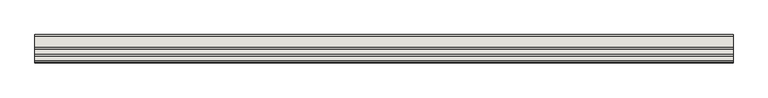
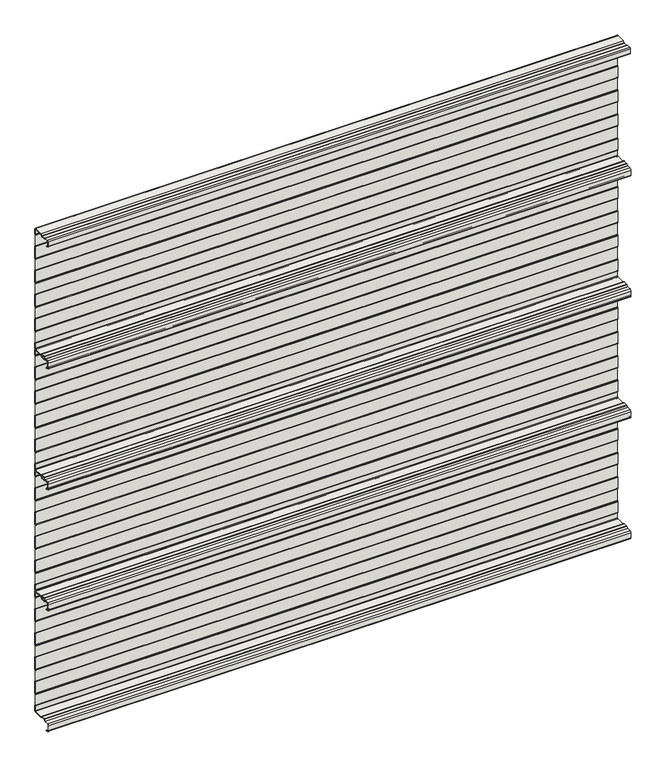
"""IFC4 building model written with IfcOpenShell, lengths in millimetres: wall geometry, Curtain Wall:21_CW_binnendoos_SAB90_500:160824 : Curtain Wall:21_CW_binnendoos_SAB90_500:160824."""

from ifc_helpers import new_model, si_unit, point, frame, frame_2d, origin, place, context, project, spatial, polyline, circle_curve, trimmed, segment, composite_curve, outline, extrude, source, transform, mapped, element, save


def wall_1cc3ae2e(model_context):
    return source(origin(), model_context, "Body", "SweptSolid", [
        extrude(outline(composite_curve([segment(trimmed(circle_curve(frame_2d((-16993.0, 477.8008302)), 2.0), [point((-16995.0, 477.8008302))], [point((-16993.6840403, 475.9214449))], True, "CARTESIAN"), True, "CONTINUOUS"), segment(polyline([(-16993.6840403, 475.9214449), (-16988.7984187, 474.1432241), (-16989.482459, 472.2638389), (-16994.3680806, 474.0420597)]), True, "CONTINUOUS"), segment(trimmed(circle_curve(frame_2d((-16993.0, 477.8008302)), 4.0), [point((-16994.3680806, 474.0420597))], [point((-16997.0, 477.8008302))], False, "CARTESIAN"), True, "CONTINUOUS"), segment(polyline([(-16997.0, 477.8008302), (-16997.0, 496.0)]), True, "CONTINUOUS"), segment(trimmed(circle_curve(frame_2d((-16993.0, 496.0)), 4.0), [point((-16997.0, 496.0))], [point((-16993.0, 500.0))], False, "CARTESIAN"), True, "CONTINUOUS"), segment(polyline([(-16993.0, 500.0), (-16978.0, 500.0), (-16971.5215463, 495.3725331)]), True, "CONTINUOUS"), segment(trimmed(circle_curve(frame_2d((-16970.3590699, 497.0)), 2.0), [point((-16971.5215463, 495.3725331))], [point((-16970.3590699, 495.0))], True, "CARTESIAN"), True, "CONTINUOUS"), segment(polyline([(-16970.3590699, 495.0), (-16955.6409301, 495.0)]), True, "CONTINUOUS"), segment(trimmed(circle_curve(frame_2d((-16955.6409301, 497.0)), 2.0), [point((-16955.6409301, 495.0))], [point((-16954.4784537, 495.3725331))], True, "CARTESIAN"), True, "CONTINUOUS"), segment(polyline([(-16954.4784537, 495.3725331), (-16948.0, 500.0), (-16912.0, 500.0)]), True, "CONTINUOUS"), segment(trimmed(circle_curve(frame_2d((-16912.0, 496.0)), 4.0), [point((-16912.0, 500.0))], [point((-16908.0, 496.0))], False, "CARTESIAN"), True, "CONTINUOUS"), segment(polyline([(-16908.0, 496.0), (-16908.0, 475.0), (-16909.4142136, 473.5857864)]), True, "CONTINUOUS"), segment(trimmed(circle_curve(frame_2d((-16908.0, 472.1715729)), 2.0), [point((-16909.4142136, 473.5857864))], [point((-16910.0, 472.1715729))], True, "CARTESIAN"), True, "CONTINUOUS"), segment(polyline([(-16910.0, 472.1715729), (-16910.0, 427.8284271)]), True, "CONTINUOUS"), segment(trimmed(circle_curve(frame_2d((-16908.0, 427.8284271)), 2.0), [point((-16910.0, 427.8284271))], [point((-16909.4142136, 426.4142136))], True, "CARTESIAN"), True, "CONTINUOUS"), segment(polyline([(-16909.4142136, 426.4142136), (-16908.0, 425.0), (-16908.0, 375.0), (-16909.4142136, 373.5857864)]), True, "CONTINUOUS"), segment(trimmed(circle_curve(frame_2d((-16908.0, 372.1715729)), 2.0), [point((-16909.4142136, 373.5857864))], [point((-16910.0, 372.1715729))], True, "CARTESIAN"), True, "CONTINUOUS"), segment(polyline([(-16910.0, 372.1715729), (-16910.0, 327.8284271)]), True, "CONTINUOUS"), segment(trimmed(circle_curve(frame_2d((-16908.0, 327.8284271)), 2.0), [point((-16910.0, 327.8284271))], [point((-16909.4142136, 326.4142136))], True, "CARTESIAN"), True, "CONTINUOUS"), segment(polyline([(-16909.4142136, 326.4142136), (-16908.0, 325.0), (-16908.0, 275.0), (-16909.4142136, 273.5857864)]), True, "CONTINUOUS"), segment(trimmed(circle_curve(frame_2d((-16908.0, 272.1715729)), 2.0), [point((-16909.4142136, 273.5857864))], [point((-16910.0, 272.1715729))], True, "CARTESIAN"), True, "CONTINUOUS"), segment(polyline([(-16910.0, 272.1715729), (-16910.0, 227.8284271)]), True, "CONTINUOUS"), segment(trimmed(circle_curve(frame_2d((-16908.0, 227.8284271)), 2.0), [point((-16910.0, 227.8284271))], [point((-16909.4142136, 226.4142136))], True, "CARTESIAN"), True, "CONTINUOUS"), segment(polyline([(-16909.4142136, 226.4142136), (-16908.0, 225.0), (-16908.0, 175.0), (-16909.4142136, 173.5857864)]), True, "CONTINUOUS"), segment(trimmed(circle_curve(frame_2d((-16908.0, 172.1715729)), 2.0), [point((-16909.4142136, 173.5857864))], [point((-16910.0, 172.1715729))], True, "CARTESIAN"), True, "CONTINUOUS"), segment(polyline([(-16910.0, 172.1715729), (-16910.0, 127.8284271)]), True, "CONTINUOUS"), segment(trimmed(circle_curve(frame_2d((-16908.0, 127.8284271)), 2.0), [point((-16910.0, 127.8284271))], [point((-16909.4142136, 126.4142136))], True, "CARTESIAN"), True, "CONTINUOUS"), segment(polyline([(-16909.4142136, 126.4142136), (-16908.0, 125.0), (-16908.0, 75.0), (-16909.4142136, 73.5857864)]), True, "CONTINUOUS"), segment(trimmed(circle_curve(frame_2d((-16908.0, 72.1715729)), 2.0), [point((-16909.4142136, 73.5857864))], [point((-16910.0, 72.1715729))], True, "CARTESIAN"), True, "CONTINUOUS"), segment(polyline([(-16910.0, 72.1715729), (-16910.0, 27.8284271)]), True, "CONTINUOUS"), segment(trimmed(circle_curve(frame_2d((-16908.0, 27.8284271)), 2.0), [point((-16910.0, 27.8284271))], [point((-16909.4142136, 26.4142136))], True, "CARTESIAN"), True, "CONTINUOUS"), segment(polyline([(-16909.4142136, 26.4142136), (-16908.0, 25.0), (-16908.0, 4.0)]), True, "CONTINUOUS"), segment(trimmed(circle_curve(frame_2d((-16912.0, 4.0)), 4.0), [point((-16908.0, 4.0))], [point((-16912.0, 0.0))], False, "CARTESIAN"), True, "CONTINUOUS"), segment(polyline([(-16912.0, 0.0), (-16948.0, 0.0), (-16954.4784537, 4.6274669)]), True, "CONTINUOUS"), segment(trimmed(circle_curve(frame_2d((-16955.6409301, 3.0)), 2.0), [point((-16954.4784537, 4.6274669))], [point((-16955.6409301, 5.0))], True, "CARTESIAN"), True, "CONTINUOUS"), segment(polyline([(-16955.6409301, 5.0), (-16970.3590699, 5.0)]), True, "CONTINUOUS"), segment(trimmed(circle_curve(frame_2d((-16970.3590699, 3.0)), 2.0), [point((-16970.3590699, 5.0))], [point((-16971.5215463, 4.6274669))], True, "CARTESIAN"), True, "CONTINUOUS"), segment(polyline([(-16971.5215463, 4.6274669), (-16978.0, 0.0), (-16994.0, 0.0)]), True, "CONTINUOUS"), segment(trimmed(circle_curve(frame_2d((-16994.0, -4.0)), 4.0), [point((-16994.0, 0.0))], [point((-16998.0, -4.0))], True, "CARTESIAN"), True, "CONTINUOUS"), segment(polyline([(-16998.0, -4.0), (-16998.0, -24.1991698)]), True, "CONTINUOUS"), segment(trimmed(circle_curve(frame_2d((-16994.0, -24.1991698)), 4.0), [point((-16998.0, -24.1991698))], [point((-16995.3680806, -27.9579403))], True, "CARTESIAN"), True, "CONTINUOUS"), segment(polyline([(-16995.3680806, -27.9579403), (-16983.9046107, -32.1303021), (-16984.588651, -34.0096874), (-16996.0521209, -29.8373256)]), True, "CONTINUOUS"), segment(trimmed(circle_curve(frame_2d((-16994.0, -24.1991698)), 6.0), [point((-16996.0521209, -29.8373256))], [point((-17000.0, -24.1991698))], False, "CARTESIAN"), True, "CONTINUOUS"), segment(polyline([(-17000.0, -24.1991698), (-17000.0, -4.0)]), True, "CONTINUOUS"), segment(trimmed(circle_curve(frame_2d((-16994.0, -4.0)), 6.0), [point((-17000.0, -4.0))], [point((-16994.0, 2.0))], False, "CARTESIAN"), True, "CONTINUOUS"), segment(polyline([(-16994.0, 2.0), (-16978.6409301, 2.0), (-16972.6840227, 6.2549339)]), True, "CONTINUOUS"), segment(trimmed(circle_curve(frame_2d((-16970.3590699, 3.0)), 4.0), [point((-16972.6840227, 6.2549339))], [point((-16970.3590699, 7.0))], False, "CARTESIAN"), True, "CONTINUOUS"), segment(polyline([(-16970.3590699, 7.0), (-16955.6409301, 7.0)]), True, "CONTINUOUS"), segment(trimmed(circle_curve(frame_2d((-16955.6409301, 3.0)), 4.0), [point((-16955.6409301, 7.0))], [point((-16953.3159773, 6.2549339))], False, "CARTESIAN"), True, "CONTINUOUS"), segment(polyline([(-16953.3159773, 6.2549339), (-16947.3590699, 2.0), (-16912.0, 2.0)]), True, "CONTINUOUS"), segment(trimmed(circle_curve(frame_2d((-16912.0, 4.0)), 2.0), [point((-16912.0, 2.0))], [point((-16910.0, 4.0))], True, "CARTESIAN"), True, "CONTINUOUS"), segment(polyline([(-16910.0, 4.0), (-16910.0, 24.1715729), (-16910.8284271, 25.0)]), True, "CONTINUOUS"), segment(trimmed(circle_curve(frame_2d((-16908.0, 27.8284271)), 4.0), [point((-16910.8284271, 25.0))], [point((-16912.0, 27.8284271))], False, "CARTESIAN"), True, "CONTINUOUS"), segment(polyline([(-16912.0, 27.8284271), (-16912.0, 72.1715729)]), True, "CONTINUOUS"), segment(trimmed(circle_curve(frame_2d((-16908.0, 72.1715729)), 4.0), [point((-16912.0, 72.1715729))], [point((-16910.8284271, 75.0))], False, "CARTESIAN"), True, "CONTINUOUS"), segment(polyline([(-16910.8284271, 75.0), (-16910.0, 75.8284271), (-16910.0, 124.1715729), (-16910.8284271, 125.0)]), True, "CONTINUOUS"), segment(trimmed(circle_curve(frame_2d((-16908.0, 127.8284271)), 4.0), [point((-16910.8284271, 125.0))], [point((-16912.0, 127.8284271))], False, "CARTESIAN"), True, "CONTINUOUS"), segment(polyline([(-16912.0, 127.8284271), (-16912.0, 172.1715729)]), True, "CONTINUOUS"), segment(trimmed(circle_curve(frame_2d((-16908.0, 172.1715729)), 4.0), [point((-16912.0, 172.1715729))], [point((-16910.8284271, 175.0))], False, "CARTESIAN"), True, "CONTINUOUS"), segment(polyline([(-16910.8284271, 175.0), (-16910.0, 175.8284271), (-16910.0, 224.1715729), (-16910.8284271, 225.0)]), True, "CONTINUOUS"), segment(trimmed(circle_curve(frame_2d((-16908.0, 227.8284271)), 4.0), [point((-16910.8284271, 225.0))], [point((-16912.0, 227.8284271))], False, "CARTESIAN"), True, "CONTINUOUS"), segment(polyline([(-16912.0, 227.8284271), (-16912.0, 272.1715729)]), True, "CONTINUOUS"), segment(trimmed(circle_curve(frame_2d((-16908.0, 272.1715729)), 4.0), [point((-16912.0, 272.1715729))], [point((-16910.8284271, 275.0))], False, "CARTESIAN"), True, "CONTINUOUS"), segment(polyline([(-16910.8284271, 275.0), (-16910.0, 275.8284271), (-16910.0, 324.1715729), (-16910.8284271, 325.0)]), True, "CONTINUOUS"), segment(trimmed(circle_curve(frame_2d((-16908.0, 327.8284271)), 4.0), [point((-16910.8284271, 325.0))], [point((-16912.0, 327.8284271))], False, "CARTESIAN"), True, "CONTINUOUS"), segment(polyline([(-16912.0, 327.8284271), (-16912.0, 372.1715729)]), True, "CONTINUOUS"), segment(trimmed(circle_curve(frame_2d((-16908.0, 372.1715729)), 4.0), [point((-16912.0, 372.1715729))], [point((-16910.8284271, 375.0))], False, "CARTESIAN"), True, "CONTINUOUS"), segment(polyline([(-16910.8284271, 375.0), (-16910.0, 375.8284271), (-16910.0, 424.1715729), (-16910.8284271, 425.0)]), True, "CONTINUOUS"), segment(trimmed(circle_curve(frame_2d((-16908.0, 427.8284271)), 4.0), [point((-16910.8284271, 425.0))], [point((-16912.0, 427.8284271))], False, "CARTESIAN"), True, "CONTINUOUS"), segment(polyline([(-16912.0, 427.8284271), (-16912.0, 472.1715729)]), True, "CONTINUOUS"), segment(trimmed(circle_curve(frame_2d((-16908.0, 472.1715729)), 4.0), [point((-16912.0, 472.1715729))], [point((-16910.8284271, 475.0))], False, "CARTESIAN"), True, "CONTINUOUS"), segment(polyline([(-16910.8284271, 475.0), (-16910.0, 475.8284271), (-16910.0, 496.0)]), True, "CONTINUOUS"), segment(trimmed(circle_curve(frame_2d((-16912.0, 496.0)), 2.0), [point((-16910.0, 496.0))], [point((-16912.0, 498.0))], True, "CARTESIAN"), True, "CONTINUOUS"), segment(polyline([(-16912.0, 498.0), (-16947.3590699, 498.0), (-16953.3159773, 493.7450661)]), True, "CONTINUOUS"), segment(trimmed(circle_curve(frame_2d((-16955.6409301, 497.0)), 4.0), [point((-16953.3159773, 493.7450661))], [point((-16955.6409301, 493.0))], False, "CARTESIAN"), True, "CONTINUOUS"), segment(polyline([(-16955.6409301, 493.0), (-16970.3590699, 493.0)]), True, "CONTINUOUS"), segment(trimmed(circle_curve(frame_2d((-16970.3590699, 497.0)), 4.0), [point((-16970.3590699, 493.0))], [point((-16972.6840227, 493.7450661))], False, "CARTESIAN"), True, "CONTINUOUS"), segment(polyline([(-16972.6840227, 493.7450661), (-16978.6409301, 498.0), (-16993.0, 498.0)]), True, "CONTINUOUS"), segment(trimmed(circle_curve(frame_2d((-16993.0, 496.0)), 2.0), [point((-16993.0, 498.0))], [point((-16995.0, 496.0))], True, "CARTESIAN"), True, "CONTINUOUS"), segment(polyline([(-16995.0, 496.0), (-16995.0, 477.8008302)]), True, "CONTINUOUS")], self_intersect=False)), frame((11995.0, 0.0, 0.0), z_axis=(1.0, 0.0, 0.0), x_axis=(0.0, 1.0, 0.0)), (0.0, 0.0, 1.0), 2280.0),
        extrude(outline(composite_curve([segment(trimmed(circle_curve(frame_2d((-16993.0, 977.8008302)), 2.0), [point((-16995.0, 977.8008302))], [point((-16993.6840403, 975.9214449))], True, "CARTESIAN"), True, "CONTINUOUS"), segment(polyline([(-16993.6840403, 975.9214449), (-16988.7984187, 974.1432241), (-16989.482459, 972.2638389), (-16994.3680806, 974.0420597)]), True, "CONTINUOUS"), segment(trimmed(circle_curve(frame_2d((-16993.0, 977.8008302)), 4.0), [point((-16994.3680806, 974.0420597))], [point((-16997.0, 977.8008302))], False, "CARTESIAN"), True, "CONTINUOUS"), segment(polyline([(-16997.0, 977.8008302), (-16997.0, 996.0)]), True, "CONTINUOUS"), segment(trimmed(circle_curve(frame_2d((-16993.0, 996.0)), 4.0), [point((-16997.0, 996.0))], [point((-16993.0, 1000.0))], False, "CARTESIAN"), True, "CONTINUOUS"), segment(polyline([(-16993.0, 1000.0), (-16978.0, 1000.0), (-16971.5215463, 995.3725331)]), True, "CONTINUOUS"), segment(trimmed(circle_curve(frame_2d((-16970.3590699, 997.0)), 2.0), [point((-16971.5215463, 995.3725331))], [point((-16970.3590699, 995.0))], True, "CARTESIAN"), True, "CONTINUOUS"), segment(polyline([(-16970.3590699, 995.0), (-16955.6409301, 995.0)]), True, "CONTINUOUS"), segment(trimmed(circle_curve(frame_2d((-16955.6409301, 997.0)), 2.0), [point((-16955.6409301, 995.0))], [point((-16954.4784537, 995.3725331))], True, "CARTESIAN"), True, "CONTINUOUS"), segment(polyline([(-16954.4784537, 995.3725331), (-16948.0, 1000.0), (-16912.0, 1000.0)]), True, "CONTINUOUS"), segment(trimmed(circle_curve(frame_2d((-16912.0, 996.0)), 4.0), [point((-16912.0, 1000.0))], [point((-16908.0, 996.0))], False, "CARTESIAN"), True, "CONTINUOUS"), segment(polyline([(-16908.0, 996.0), (-16908.0, 975.0), (-16909.4142136, 973.5857864)]), True, "CONTINUOUS"), segment(trimmed(circle_curve(frame_2d((-16908.0, 972.1715729)), 2.0), [point((-16909.4142136, 973.5857864))], [point((-16910.0, 972.1715729))], True, "CARTESIAN"), True, "CONTINUOUS"), segment(polyline([(-16910.0, 972.1715729), (-16910.0, 927.8284271)]), True, "CONTINUOUS"), segment(trimmed(circle_curve(frame_2d((-16908.0, 927.8284271)), 2.0), [point((-16910.0, 927.8284271))], [point((-16909.4142136, 926.4142136))], True, "CARTESIAN"), True, "CONTINUOUS"), segment(polyline([(-16909.4142136, 926.4142136), (-16908.0, 925.0), (-16908.0, 875.0), (-16909.4142136, 873.5857864)]), True, "CONTINUOUS"), segment(trimmed(circle_curve(frame_2d((-16908.0, 872.1715729)), 2.0), [point((-16909.4142136, 873.5857864))], [point((-16910.0, 872.1715729))], True, "CARTESIAN"), True, "CONTINUOUS"), segment(polyline([(-16910.0, 872.1715729), (-16910.0, 827.8284271)]), True, "CONTINUOUS"), segment(trimmed(circle_curve(frame_2d((-16908.0, 827.8284271)), 2.0), [point((-16910.0, 827.8284271))], [point((-16909.4142136, 826.4142136))], True, "CARTESIAN"), True, "CONTINUOUS"), segment(polyline([(-16909.4142136, 826.4142136), (-16908.0, 825.0), (-16908.0, 775.0), (-16909.4142136, 773.5857864)]), True, "CONTINUOUS"), segment(trimmed(circle_curve(frame_2d((-16908.0, 772.1715729)), 2.0), [point((-16909.4142136, 773.5857864))], [point((-16910.0, 772.1715729))], True, "CARTESIAN"), True, "CONTINUOUS"), segment(polyline([(-16910.0, 772.1715729), (-16910.0, 727.8284271)]), True, "CONTINUOUS"), segment(trimmed(circle_curve(frame_2d((-16908.0, 727.8284271)), 2.0), [point((-16910.0, 727.8284271))], [point((-16909.4142136, 726.4142136))], True, "CARTESIAN"), True, "CONTINUOUS"), segment(polyline([(-16909.4142136, 726.4142136), (-16908.0, 725.0), (-16908.0, 675.0), (-16909.4142136, 673.5857864)]), True, "CONTINUOUS"), segment(trimmed(circle_curve(frame_2d((-16908.0, 672.1715729)), 2.0), [point((-16909.4142136, 673.5857864))], [point((-16910.0, 672.1715729))], True, "CARTESIAN"), True, "CONTINUOUS"), segment(polyline([(-16910.0, 672.1715729), (-16910.0, 627.8284271)]), True, "CONTINUOUS"), segment(trimmed(circle_curve(frame_2d((-16908.0, 627.8284271)), 2.0), [point((-16910.0, 627.8284271))], [point((-16909.4142136, 626.4142136))], True, "CARTESIAN"), True, "CONTINUOUS"), segment(polyline([(-16909.4142136, 626.4142136), (-16908.0, 625.0), (-16908.0, 575.0), (-16909.4142136, 573.5857864)]), True, "CONTINUOUS"), segment(trimmed(circle_curve(frame_2d((-16908.0, 572.1715729)), 2.0), [point((-16909.4142136, 573.5857864))], [point((-16910.0, 572.1715729))], True, "CARTESIAN"), True, "CONTINUOUS"), segment(polyline([(-16910.0, 572.1715729), (-16910.0, 527.8284271)]), True, "CONTINUOUS"), segment(trimmed(circle_curve(frame_2d((-16908.0, 527.8284271)), 2.0), [point((-16910.0, 527.8284271))], [point((-16909.4142136, 526.4142136))], True, "CARTESIAN"), True, "CONTINUOUS"), segment(polyline([(-16909.4142136, 526.4142136), (-16908.0, 525.0), (-16908.0, 504.0)]), True, "CONTINUOUS"), segment(trimmed(circle_curve(frame_2d((-16912.0, 504.0)), 4.0), [point((-16908.0, 504.0))], [point((-16912.0, 500.0))], False, "CARTESIAN"), True, "CONTINUOUS"), segment(polyline([(-16912.0, 500.0), (-16948.0, 500.0), (-16954.4784537, 504.6274669)]), True, "CONTINUOUS"), segment(trimmed(circle_curve(frame_2d((-16955.6409301, 503.0)), 2.0), [point((-16954.4784537, 504.6274669))], [point((-16955.6409301, 505.0))], True, "CARTESIAN"), True, "CONTINUOUS"), segment(polyline([(-16955.6409301, 505.0), (-16970.3590699, 505.0)]), True, "CONTINUOUS"), segment(trimmed(circle_curve(frame_2d((-16970.3590699, 503.0)), 2.0), [point((-16970.3590699, 505.0))], [point((-16971.5215463, 504.6274669))], True, "CARTESIAN"), True, "CONTINUOUS"), segment(polyline([(-16971.5215463, 504.6274669), (-16978.0, 500.0), (-16994.0, 500.0)]), True, "CONTINUOUS"), segment(trimmed(circle_curve(frame_2d((-16994.0, 496.0)), 4.0), [point((-16994.0, 500.0))], [point((-16998.0, 496.0))], True, "CARTESIAN"), True, "CONTINUOUS"), segment(polyline([(-16998.0, 496.0), (-16998.0, 475.8008302)]), True, "CONTINUOUS"), segment(trimmed(circle_curve(frame_2d((-16994.0, 475.8008302)), 4.0), [point((-16998.0, 475.8008302))], [point((-16995.3680806, 472.0420597))], True, "CARTESIAN"), True, "CONTINUOUS"), segment(polyline([(-16995.3680806, 472.0420597), (-16983.9046107, 467.8696979), (-16984.588651, 465.9903126), (-16996.0521209, 470.1626744)]), True, "CONTINUOUS"), segment(trimmed(circle_curve(frame_2d((-16994.0, 475.8008302)), 6.0), [point((-16996.0521209, 470.1626744))], [point((-17000.0, 475.8008302))], False, "CARTESIAN"), True, "CONTINUOUS"), segment(polyline([(-17000.0, 475.8008302), (-17000.0, 496.0)]), True, "CONTINUOUS"), segment(trimmed(circle_curve(frame_2d((-16994.0, 496.0)), 6.0), [point((-17000.0, 496.0))], [point((-16994.0, 502.0))], False, "CARTESIAN"), True, "CONTINUOUS"), segment(polyline([(-16994.0, 502.0), (-16978.6409301, 502.0), (-16972.6840227, 506.2549339)]), True, "CONTINUOUS"), segment(trimmed(circle_curve(frame_2d((-16970.3590699, 503.0)), 4.0), [point((-16972.6840227, 506.2549339))], [point((-16970.3590699, 507.0))], False, "CARTESIAN"), True, "CONTINUOUS"), segment(polyline([(-16970.3590699, 507.0), (-16955.6409301, 507.0)]), True, "CONTINUOUS"), segment(trimmed(circle_curve(frame_2d((-16955.6409301, 503.0)), 4.0), [point((-16955.6409301, 507.0))], [point((-16953.3159773, 506.2549339))], False, "CARTESIAN"), True, "CONTINUOUS"), segment(polyline([(-16953.3159773, 506.2549339), (-16947.3590699, 502.0), (-16912.0, 502.0)]), True, "CONTINUOUS"), segment(trimmed(circle_curve(frame_2d((-16912.0, 504.0)), 2.0), [point((-16912.0, 502.0))], [point((-16910.0, 504.0))], True, "CARTESIAN"), True, "CONTINUOUS"), segment(polyline([(-16910.0, 504.0), (-16910.0, 524.1715729), (-16910.8284271, 525.0)]), True, "CONTINUOUS"), segment(trimmed(circle_curve(frame_2d((-16908.0, 527.8284271)), 4.0), [point((-16910.8284271, 525.0))], [point((-16912.0, 527.8284271))], False, "CARTESIAN"), True, "CONTINUOUS"), segment(polyline([(-16912.0, 527.8284271), (-16912.0, 572.1715729)]), True, "CONTINUOUS"), segment(trimmed(circle_curve(frame_2d((-16908.0, 572.1715729)), 4.0), [point((-16912.0, 572.1715729))], [point((-16910.8284271, 575.0))], False, "CARTESIAN"), True, "CONTINUOUS"), segment(polyline([(-16910.8284271, 575.0), (-16910.0, 575.8284271), (-16910.0, 624.1715729), (-16910.8284271, 625.0)]), True, "CONTINUOUS"), segment(trimmed(circle_curve(frame_2d((-16908.0, 627.8284271)), 4.0), [point((-16910.8284271, 625.0))], [point((-16912.0, 627.8284271))], False, "CARTESIAN"), True, "CONTINUOUS"), segment(polyline([(-16912.0, 627.8284271), (-16912.0, 672.1715729)]), True, "CONTINUOUS"), segment(trimmed(circle_curve(frame_2d((-16908.0, 672.1715729)), 4.0), [point((-16912.0, 672.1715729))], [point((-16910.8284271, 675.0))], False, "CARTESIAN"), True, "CONTINUOUS"), segment(polyline([(-16910.8284271, 675.0), (-16910.0, 675.8284271), (-16910.0, 724.1715729), (-16910.8284271, 725.0)]), True, "CONTINUOUS"), segment(trimmed(circle_curve(frame_2d((-16908.0, 727.8284271)), 4.0), [point((-16910.8284271, 725.0))], [point((-16912.0, 727.8284271))], False, "CARTESIAN"), True, "CONTINUOUS"), segment(polyline([(-16912.0, 727.8284271), (-16912.0, 772.1715729)]), True, "CONTINUOUS"), segment(trimmed(circle_curve(frame_2d((-16908.0, 772.1715729)), 4.0), [point((-16912.0, 772.1715729))], [point((-16910.8284271, 775.0))], False, "CARTESIAN"), True, "CONTINUOUS"), segment(polyline([(-16910.8284271, 775.0), (-16910.0, 775.8284271), (-16910.0, 824.1715729), (-16910.8284271, 825.0)]), True, "CONTINUOUS"), segment(trimmed(circle_curve(frame_2d((-16908.0, 827.8284271)), 4.0), [point((-16910.8284271, 825.0))], [point((-16912.0, 827.8284271))], False, "CARTESIAN"), True, "CONTINUOUS"), segment(polyline([(-16912.0, 827.8284271), (-16912.0, 872.1715729)]), True, "CONTINUOUS"), segment(trimmed(circle_curve(frame_2d((-16908.0, 872.1715729)), 4.0), [point((-16912.0, 872.1715729))], [point((-16910.8284271, 875.0))], False, "CARTESIAN"), True, "CONTINUOUS"), segment(polyline([(-16910.8284271, 875.0), (-16910.0, 875.8284271), (-16910.0, 924.1715729), (-16910.8284271, 925.0)]), True, "CONTINUOUS"), segment(trimmed(circle_curve(frame_2d((-16908.0, 927.8284271)), 4.0), [point((-16910.8284271, 925.0))], [point((-16912.0, 927.8284271))], False, "CARTESIAN"), True, "CONTINUOUS"), segment(polyline([(-16912.0, 927.8284271), (-16912.0, 972.1715729)]), True, "CONTINUOUS"), segment(trimmed(circle_curve(frame_2d((-16908.0, 972.1715729)), 4.0), [point((-16912.0, 972.1715729))], [point((-16910.8284271, 975.0))], False, "CARTESIAN"), True, "CONTINUOUS"), segment(polyline([(-16910.8284271, 975.0), (-16910.0, 975.8284271), (-16910.0, 996.0)]), True, "CONTINUOUS"), segment(trimmed(circle_curve(frame_2d((-16912.0, 996.0)), 2.0), [point((-16910.0, 996.0))], [point((-16912.0, 998.0))], True, "CARTESIAN"), True, "CONTINUOUS"), segment(polyline([(-16912.0, 998.0), (-16947.3590699, 998.0), (-16953.3159773, 993.7450661)]), True, "CONTINUOUS"), segment(trimmed(circle_curve(frame_2d((-16955.6409301, 997.0)), 4.0), [point((-16953.3159773, 993.7450661))], [point((-16955.6409301, 993.0))], False, "CARTESIAN"), True, "CONTINUOUS"), segment(polyline([(-16955.6409301, 993.0), (-16970.3590699, 993.0)]), True, "CONTINUOUS"), segment(trimmed(circle_curve(frame_2d((-16970.3590699, 997.0)), 4.0), [point((-16970.3590699, 993.0))], [point((-16972.6840227, 993.7450661))], False, "CARTESIAN"), True, "CONTINUOUS"), segment(polyline([(-16972.6840227, 993.7450661), (-16978.6409301, 998.0), (-16993.0, 998.0)]), True, "CONTINUOUS"), segment(trimmed(circle_curve(frame_2d((-16993.0, 996.0)), 2.0), [point((-16993.0, 998.0))], [point((-16995.0, 996.0))], True, "CARTESIAN"), True, "CONTINUOUS"), segment(polyline([(-16995.0, 996.0), (-16995.0, 977.8008302)]), True, "CONTINUOUS")], self_intersect=False)), frame((11995.0, 0.0, 0.0), z_axis=(1.0, 0.0, 0.0), x_axis=(0.0, 1.0, 0.0)), (0.0, 0.0, 1.0), 2280.0),
        extrude(outline(composite_curve([segment(trimmed(circle_curve(frame_2d((-16993.0, 1477.8008302)), 2.0), [point((-16995.0, 1477.8008302))], [point((-16993.6840403, 1475.9214449))], True, "CARTESIAN"), True, "CONTINUOUS"), segment(polyline([(-16993.6840403, 1475.9214449), (-16988.7984187, 1474.1432241), (-16989.482459, 1472.2638389), (-16994.3680806, 1474.0420597)]), True, "CONTINUOUS"), segment(trimmed(circle_curve(frame_2d((-16993.0, 1477.8008302)), 4.0), [point((-16994.3680806, 1474.0420597))], [point((-16997.0, 1477.8008302))], False, "CARTESIAN"), True, "CONTINUOUS"), segment(polyline([(-16997.0, 1477.8008302), (-16997.0, 1496.0)]), True, "CONTINUOUS"), segment(trimmed(circle_curve(frame_2d((-16993.0, 1496.0)), 4.0), [point((-16997.0, 1496.0))], [point((-16993.0, 1500.0))], False, "CARTESIAN"), True, "CONTINUOUS"), segment(polyline([(-16993.0, 1500.0), (-16978.0, 1500.0), (-16971.5215463, 1495.3725331)]), True, "CONTINUOUS"), segment(trimmed(circle_curve(frame_2d((-16970.3590699, 1497.0)), 2.0), [point((-16971.5215463, 1495.3725331))], [point((-16970.3590699, 1495.0))], True, "CARTESIAN"), True, "CONTINUOUS"), segment(polyline([(-16970.3590699, 1495.0), (-16955.6409301, 1495.0)]), True, "CONTINUOUS"), segment(trimmed(circle_curve(frame_2d((-16955.6409301, 1497.0)), 2.0), [point((-16955.6409301, 1495.0))], [point((-16954.4784537, 1495.3725331))], True, "CARTESIAN"), True, "CONTINUOUS"), segment(polyline([(-16954.4784537, 1495.3725331), (-16948.0, 1500.0), (-16912.0, 1500.0)]), True, "CONTINUOUS"), segment(trimmed(circle_curve(frame_2d((-16912.0, 1496.0)), 4.0), [point((-16912.0, 1500.0))], [point((-16908.0, 1496.0))], False, "CARTESIAN"), True, "CONTINUOUS"), segment(polyline([(-16908.0, 1496.0), (-16908.0, 1475.0), (-16909.4142136, 1473.5857864)]), True, "CONTINUOUS"), segment(trimmed(circle_curve(frame_2d((-16908.0, 1472.1715729)), 2.0), [point((-16909.4142136, 1473.5857864))], [point((-16910.0, 1472.1715729))], True, "CARTESIAN"), True, "CONTINUOUS"), segment(polyline([(-16910.0, 1472.1715729), (-16910.0, 1427.8284271)]), True, "CONTINUOUS"), segment(trimmed(circle_curve(frame_2d((-16908.0, 1427.8284271)), 2.0), [point((-16910.0, 1427.8284271))], [point((-16909.4142136, 1426.4142136))], True, "CARTESIAN"), True, "CONTINUOUS"), segment(polyline([(-16909.4142136, 1426.4142136), (-16908.0, 1425.0), (-16908.0, 1375.0), (-16909.4142136, 1373.5857864)]), True, "CONTINUOUS"), segment(trimmed(circle_curve(frame_2d((-16908.0, 1372.1715729)), 2.0), [point((-16909.4142136, 1373.5857864))], [point((-16910.0, 1372.1715729))], True, "CARTESIAN"), True, "CONTINUOUS"), segment(polyline([(-16910.0, 1372.1715729), (-16910.0, 1327.8284271)]), True, "CONTINUOUS"), segment(trimmed(circle_curve(frame_2d((-16908.0, 1327.8284271)), 2.0), [point((-16910.0, 1327.8284271))], [point((-16909.4142136, 1326.4142136))], True, "CARTESIAN"), True, "CONTINUOUS"), segment(polyline([(-16909.4142136, 1326.4142136), (-16908.0, 1325.0), (-16908.0, 1275.0), (-16909.4142136, 1273.5857864)]), True, "CONTINUOUS"), segment(trimmed(circle_curve(frame_2d((-16908.0, 1272.1715729)), 2.0), [point((-16909.4142136, 1273.5857864))], [point((-16910.0, 1272.1715729))], True, "CARTESIAN"), True, "CONTINUOUS"), segment(polyline([(-16910.0, 1272.1715729), (-16910.0, 1227.8284271)]), True, "CONTINUOUS"), segment(trimmed(circle_curve(frame_2d((-16908.0, 1227.8284271)), 2.0), [point((-16910.0, 1227.8284271))], [point((-16909.4142136, 1226.4142136))], True, "CARTESIAN"), True, "CONTINUOUS"), segment(polyline([(-16909.4142136, 1226.4142136), (-16908.0, 1225.0), (-16908.0, 1175.0), (-16909.4142136, 1173.5857864)]), True, "CONTINUOUS"), segment(trimmed(circle_curve(frame_2d((-16908.0, 1172.1715729)), 2.0), [point((-16909.4142136, 1173.5857864))], [point((-16910.0, 1172.1715729))], True, "CARTESIAN"), True, "CONTINUOUS"), segment(polyline([(-16910.0, 1172.1715729), (-16910.0, 1127.8284271)]), True, "CONTINUOUS"), segment(trimmed(circle_curve(frame_2d((-16908.0, 1127.8284271)), 2.0), [point((-16910.0, 1127.8284271))], [point((-16909.4142136, 1126.4142136))], True, "CARTESIAN"), True, "CONTINUOUS"), segment(polyline([(-16909.4142136, 1126.4142136), (-16908.0, 1125.0), (-16908.0, 1075.0), (-16909.4142136, 1073.5857864)]), True, "CONTINUOUS"), segment(trimmed(circle_curve(frame_2d((-16908.0, 1072.1715729)), 2.0), [point((-16909.4142136, 1073.5857864))], [point((-16910.0, 1072.1715729))], True, "CARTESIAN"), True, "CONTINUOUS"), segment(polyline([(-16910.0, 1072.1715729), (-16910.0, 1027.8284271)]), True, "CONTINUOUS"), segment(trimmed(circle_curve(frame_2d((-16908.0, 1027.8284271)), 2.0), [point((-16910.0, 1027.8284271))], [point((-16909.4142136, 1026.4142136))], True, "CARTESIAN"), True, "CONTINUOUS"), segment(polyline([(-16909.4142136, 1026.4142136), (-16908.0, 1025.0), (-16908.0, 1004.0)]), True, "CONTINUOUS"), segment(trimmed(circle_curve(frame_2d((-16912.0, 1004.0)), 4.0), [point((-16908.0, 1004.0))], [point((-16912.0, 1000.0))], False, "CARTESIAN"), True, "CONTINUOUS"), segment(polyline([(-16912.0, 1000.0), (-16948.0, 1000.0), (-16954.4784537, 1004.6274669)]), True, "CONTINUOUS"), segment(trimmed(circle_curve(frame_2d((-16955.6409301, 1003.0)), 2.0), [point((-16954.4784537, 1004.6274669))], [point((-16955.6409301, 1005.0))], True, "CARTESIAN"), True, "CONTINUOUS"), segment(polyline([(-16955.6409301, 1005.0), (-16970.3590699, 1005.0)]), True, "CONTINUOUS"), segment(trimmed(circle_curve(frame_2d((-16970.3590699, 1003.0)), 2.0), [point((-16970.3590699, 1005.0))], [point((-16971.5215463, 1004.6274669))], True, "CARTESIAN"), True, "CONTINUOUS"), segment(polyline([(-16971.5215463, 1004.6274669), (-16978.0, 1000.0), (-16994.0, 1000.0)]), True, "CONTINUOUS"), segment(trimmed(circle_curve(frame_2d((-16994.0, 996.0)), 4.0), [point((-16994.0, 1000.0))], [point((-16998.0, 996.0))], True, "CARTESIAN"), True, "CONTINUOUS"), segment(polyline([(-16998.0, 996.0), (-16998.0, 975.8008302)]), True, "CONTINUOUS"), segment(trimmed(circle_curve(frame_2d((-16994.0, 975.8008302)), 4.0), [point((-16998.0, 975.8008302))], [point((-16995.3680806, 972.0420597))], True, "CARTESIAN"), True, "CONTINUOUS"), segment(polyline([(-16995.3680806, 972.0420597), (-16983.9046107, 967.8696979), (-16984.588651, 965.9903126), (-16996.0521209, 970.1626744)]), True, "CONTINUOUS"), segment(trimmed(circle_curve(frame_2d((-16994.0, 975.8008302)), 6.0), [point((-16996.0521209, 970.1626744))], [point((-17000.0, 975.8008302))], False, "CARTESIAN"), True, "CONTINUOUS"), segment(polyline([(-17000.0, 975.8008302), (-17000.0, 996.0)]), True, "CONTINUOUS"), segment(trimmed(circle_curve(frame_2d((-16994.0, 996.0)), 6.0), [point((-17000.0, 996.0))], [point((-16994.0, 1002.0))], False, "CARTESIAN"), True, "CONTINUOUS"), segment(polyline([(-16994.0, 1002.0), (-16978.6409301, 1002.0), (-16972.6840227, 1006.2549339)]), True, "CONTINUOUS"), segment(trimmed(circle_curve(frame_2d((-16970.3590699, 1003.0)), 4.0), [point((-16972.6840227, 1006.2549339))], [point((-16970.3590699, 1007.0))], False, "CARTESIAN"), True, "CONTINUOUS"), segment(polyline([(-16970.3590699, 1007.0), (-16955.6409301, 1007.0)]), True, "CONTINUOUS"), segment(trimmed(circle_curve(frame_2d((-16955.6409301, 1003.0)), 4.0), [point((-16955.6409301, 1007.0))], [point((-16953.3159773, 1006.2549339))], False, "CARTESIAN"), True, "CONTINUOUS"), segment(polyline([(-16953.3159773, 1006.2549339), (-16947.3590699, 1002.0), (-16912.0, 1002.0)]), True, "CONTINUOUS"), segment(trimmed(circle_curve(frame_2d((-16912.0, 1004.0)), 2.0), [point((-16912.0, 1002.0))], [point((-16910.0, 1004.0))], True, "CARTESIAN"), True, "CONTINUOUS"), segment(polyline([(-16910.0, 1004.0), (-16910.0, 1024.1715729), (-16910.8284271, 1025.0)]), True, "CONTINUOUS"), segment(trimmed(circle_curve(frame_2d((-16908.0, 1027.8284271)), 4.0), [point((-16910.8284271, 1025.0))], [point((-16912.0, 1027.8284271))], False, "CARTESIAN"), True, "CONTINUOUS"), segment(polyline([(-16912.0, 1027.8284271), (-16912.0, 1072.1715729)]), True, "CONTINUOUS"), segment(trimmed(circle_curve(frame_2d((-16908.0, 1072.1715729)), 4.0), [point((-16912.0, 1072.1715729))], [point((-16910.8284271, 1075.0))], False, "CARTESIAN"), True, "CONTINUOUS"), segment(polyline([(-16910.8284271, 1075.0), (-16910.0, 1075.8284271), (-16910.0, 1124.1715729), (-16910.8284271, 1125.0)]), True, "CONTINUOUS"), segment(trimmed(circle_curve(frame_2d((-16908.0, 1127.8284271)), 4.0), [point((-16910.8284271, 1125.0))], [point((-16912.0, 1127.8284271))], False, "CARTESIAN"), True, "CONTINUOUS"), segment(polyline([(-16912.0, 1127.8284271), (-16912.0, 1172.1715729)]), True, "CONTINUOUS"), segment(trimmed(circle_curve(frame_2d((-16908.0, 1172.1715729)), 4.0), [point((-16912.0, 1172.1715729))], [point((-16910.8284271, 1175.0))], False, "CARTESIAN"), True, "CONTINUOUS"), segment(polyline([(-16910.8284271, 1175.0), (-16910.0, 1175.8284271), (-16910.0, 1224.1715729), (-16910.8284271, 1225.0)]), True, "CONTINUOUS"), segment(trimmed(circle_curve(frame_2d((-16908.0, 1227.8284271)), 4.0), [point((-16910.8284271, 1225.0))], [point((-16912.0, 1227.8284271))], False, "CARTESIAN"), True, "CONTINUOUS"), segment(polyline([(-16912.0, 1227.8284271), (-16912.0, 1272.1715729)]), True, "CONTINUOUS"), segment(trimmed(circle_curve(frame_2d((-16908.0, 1272.1715729)), 4.0), [point((-16912.0, 1272.1715729))], [point((-16910.8284271, 1275.0))], False, "CARTESIAN"), True, "CONTINUOUS"), segment(polyline([(-16910.8284271, 1275.0), (-16910.0, 1275.8284271), (-16910.0, 1324.1715729), (-16910.8284271, 1325.0)]), True, "CONTINUOUS"), segment(trimmed(circle_curve(frame_2d((-16908.0, 1327.8284271)), 4.0), [point((-16910.8284271, 1325.0))], [point((-16912.0, 1327.8284271))], False, "CARTESIAN"), True, "CONTINUOUS"), segment(polyline([(-16912.0, 1327.8284271), (-16912.0, 1372.1715729)]), True, "CONTINUOUS"), segment(trimmed(circle_curve(frame_2d((-16908.0, 1372.1715729)), 4.0), [point((-16912.0, 1372.1715729))], [point((-16910.8284271, 1375.0))], False, "CARTESIAN"), True, "CONTINUOUS"), segment(polyline([(-16910.8284271, 1375.0), (-16910.0, 1375.8284271), (-16910.0, 1424.1715729), (-16910.8284271, 1425.0)]), True, "CONTINUOUS"), segment(trimmed(circle_curve(frame_2d((-16908.0, 1427.8284271)), 4.0), [point((-16910.8284271, 1425.0))], [point((-16912.0, 1427.8284271))], False, "CARTESIAN"), True, "CONTINUOUS"), segment(polyline([(-16912.0, 1427.8284271), (-16912.0, 1472.1715729)]), True, "CONTINUOUS"), segment(trimmed(circle_curve(frame_2d((-16908.0, 1472.1715729)), 4.0), [point((-16912.0, 1472.1715729))], [point((-16910.8284271, 1475.0))], False, "CARTESIAN"), True, "CONTINUOUS"), segment(polyline([(-16910.8284271, 1475.0), (-16910.0, 1475.8284271), (-16910.0, 1496.0)]), True, "CONTINUOUS"), segment(trimmed(circle_curve(frame_2d((-16912.0, 1496.0)), 2.0), [point((-16910.0, 1496.0))], [point((-16912.0, 1498.0))], True, "CARTESIAN"), True, "CONTINUOUS"), segment(polyline([(-16912.0, 1498.0), (-16947.3590699, 1498.0), (-16953.3159773, 1493.7450661)]), True, "CONTINUOUS"), segment(trimmed(circle_curve(frame_2d((-16955.6409301, 1497.0)), 4.0), [point((-16953.3159773, 1493.7450661))], [point((-16955.6409301, 1493.0))], False, "CARTESIAN"), True, "CONTINUOUS"), segment(polyline([(-16955.6409301, 1493.0), (-16970.3590699, 1493.0)]), True, "CONTINUOUS"), segment(trimmed(circle_curve(frame_2d((-16970.3590699, 1497.0)), 4.0), [point((-16970.3590699, 1493.0))], [point((-16972.6840227, 1493.7450661))], False, "CARTESIAN"), True, "CONTINUOUS"), segment(polyline([(-16972.6840227, 1493.7450661), (-16978.6409301, 1498.0), (-16993.0, 1498.0)]), True, "CONTINUOUS"), segment(trimmed(circle_curve(frame_2d((-16993.0, 1496.0)), 2.0), [point((-16993.0, 1498.0))], [point((-16995.0, 1496.0))], True, "CARTESIAN"), True, "CONTINUOUS"), segment(polyline([(-16995.0, 1496.0), (-16995.0, 1477.8008302)]), True, "CONTINUOUS")], self_intersect=False)), frame((11995.0, 0.0, 0.0), z_axis=(1.0, 0.0, 0.0), x_axis=(0.0, 1.0, 0.0)), (0.0, 0.0, 1.0), 2280.0),
        extrude(outline(composite_curve([segment(trimmed(circle_curve(frame_2d((-16993.0, 1977.8008302)), 2.0), [point((-16995.0, 1977.8008302))], [point((-16993.6840403, 1975.9214449))], True, "CARTESIAN"), True, "CONTINUOUS"), segment(polyline([(-16993.6840403, 1975.9214449), (-16988.7984187, 1974.1432241), (-16989.482459, 1972.2638389), (-16994.3680806, 1974.0420597)]), True, "CONTINUOUS"), segment(trimmed(circle_curve(frame_2d((-16993.0, 1977.8008302)), 4.0), [point((-16994.3680806, 1974.0420597))], [point((-16997.0, 1977.8008302))], False, "CARTESIAN"), True, "CONTINUOUS"), segment(polyline([(-16997.0, 1977.8008302), (-16997.0, 1996.0)]), True, "CONTINUOUS"), segment(trimmed(circle_curve(frame_2d((-16993.0, 1996.0)), 4.0), [point((-16997.0, 1996.0))], [point((-16993.0, 2000.0))], False, "CARTESIAN"), True, "CONTINUOUS"), segment(polyline([(-16993.0, 2000.0), (-16978.0, 2000.0), (-16971.5215463, 1995.3725331)]), True, "CONTINUOUS"), segment(trimmed(circle_curve(frame_2d((-16970.3590699, 1997.0)), 2.0), [point((-16971.5215463, 1995.3725331))], [point((-16970.3590699, 1995.0))], True, "CARTESIAN"), True, "CONTINUOUS"), segment(polyline([(-16970.3590699, 1995.0), (-16955.6409301, 1995.0)]), True, "CONTINUOUS"), segment(trimmed(circle_curve(frame_2d((-16955.6409301, 1997.0)), 2.0), [point((-16955.6409301, 1995.0))], [point((-16954.4784537, 1995.3725331))], True, "CARTESIAN"), True, "CONTINUOUS"), segment(polyline([(-16954.4784537, 1995.3725331), (-16948.0, 2000.0), (-16912.0, 2000.0)]), True, "CONTINUOUS"), segment(trimmed(circle_curve(frame_2d((-16912.0, 1996.0)), 4.0), [point((-16912.0, 2000.0))], [point((-16908.0, 1996.0))], False, "CARTESIAN"), True, "CONTINUOUS"), segment(polyline([(-16908.0, 1996.0), (-16908.0, 1975.0), (-16909.4142136, 1973.5857864)]), True, "CONTINUOUS"), segment(trimmed(circle_curve(frame_2d((-16908.0, 1972.1715729)), 2.0), [point((-16909.4142136, 1973.5857864))], [point((-16910.0, 1972.1715729))], True, "CARTESIAN"), True, "CONTINUOUS"), segment(polyline([(-16910.0, 1972.1715729), (-16910.0, 1927.8284271)]), True, "CONTINUOUS"), segment(trimmed(circle_curve(frame_2d((-16908.0, 1927.8284271)), 2.0), [point((-16910.0, 1927.8284271))], [point((-16909.4142136, 1926.4142136))], True, "CARTESIAN"), True, "CONTINUOUS"), segment(polyline([(-16909.4142136, 1926.4142136), (-16908.0, 1925.0), (-16908.0, 1875.0), (-16909.4142136, 1873.5857864)]), True, "CONTINUOUS"), segment(trimmed(circle_curve(frame_2d((-16908.0, 1872.1715729)), 2.0), [point((-16909.4142136, 1873.5857864))], [point((-16910.0, 1872.1715729))], True, "CARTESIAN"), True, "CONTINUOUS"), segment(polyline([(-16910.0, 1872.1715729), (-16910.0, 1827.8284271)]), True, "CONTINUOUS"), segment(trimmed(circle_curve(frame_2d((-16908.0, 1827.8284271)), 2.0), [point((-16910.0, 1827.8284271))], [point((-16909.4142136, 1826.4142136))], True, "CARTESIAN"), True, "CONTINUOUS"), segment(polyline([(-16909.4142136, 1826.4142136), (-16908.0, 1825.0), (-16908.0, 1775.0), (-16909.4142136, 1773.5857864)]), True, "CONTINUOUS"), segment(trimmed(circle_curve(frame_2d((-16908.0, 1772.1715729)), 2.0), [point((-16909.4142136, 1773.5857864))], [point((-16910.0, 1772.1715729))], True, "CARTESIAN"), True, "CONTINUOUS"), segment(polyline([(-16910.0, 1772.1715729), (-16910.0, 1727.8284271)]), True, "CONTINUOUS"), segment(trimmed(circle_curve(frame_2d((-16908.0, 1727.8284271)), 2.0), [point((-16910.0, 1727.8284271))], [point((-16909.4142136, 1726.4142136))], True, "CARTESIAN"), True, "CONTINUOUS"), segment(polyline([(-16909.4142136, 1726.4142136), (-16908.0, 1725.0), (-16908.0, 1675.0), (-16909.4142136, 1673.5857864)]), True, "CONTINUOUS"), segment(trimmed(circle_curve(frame_2d((-16908.0, 1672.1715729)), 2.0), [point((-16909.4142136, 1673.5857864))], [point((-16910.0, 1672.1715729))], True, "CARTESIAN"), True, "CONTINUOUS"), segment(polyline([(-16910.0, 1672.1715729), (-16910.0, 1627.8284271)]), True, "CONTINUOUS"), segment(trimmed(circle_curve(frame_2d((-16908.0, 1627.8284271)), 2.0), [point((-16910.0, 1627.8284271))], [point((-16909.4142136, 1626.4142136))], True, "CARTESIAN"), True, "CONTINUOUS"), segment(polyline([(-16909.4142136, 1626.4142136), (-16908.0, 1625.0), (-16908.0, 1575.0), (-16909.4142136, 1573.5857864)]), True, "CONTINUOUS"), segment(trimmed(circle_curve(frame_2d((-16908.0, 1572.1715729)), 2.0), [point((-16909.4142136, 1573.5857864))], [point((-16910.0, 1572.1715729))], True, "CARTESIAN"), True, "CONTINUOUS"), segment(polyline([(-16910.0, 1572.1715729), (-16910.0, 1527.8284271)]), True, "CONTINUOUS"), segment(trimmed(circle_curve(frame_2d((-16908.0, 1527.8284271)), 2.0), [point((-16910.0, 1527.8284271))], [point((-16909.4142136, 1526.4142136))], True, "CARTESIAN"), True, "CONTINUOUS"), segment(polyline([(-16909.4142136, 1526.4142136), (-16908.0, 1525.0), (-16908.0, 1504.0)]), True, "CONTINUOUS"), segment(trimmed(circle_curve(frame_2d((-16912.0, 1504.0)), 4.0), [point((-16908.0, 1504.0))], [point((-16912.0, 1500.0))], False, "CARTESIAN"), True, "CONTINUOUS"), segment(polyline([(-16912.0, 1500.0), (-16948.0, 1500.0), (-16954.4784537, 1504.6274669)]), True, "CONTINUOUS"), segment(trimmed(circle_curve(frame_2d((-16955.6409301, 1503.0)), 2.0), [point((-16954.4784537, 1504.6274669))], [point((-16955.6409301, 1505.0))], True, "CARTESIAN"), True, "CONTINUOUS"), segment(polyline([(-16955.6409301, 1505.0), (-16970.3590699, 1505.0)]), True, "CONTINUOUS"), segment(trimmed(circle_curve(frame_2d((-16970.3590699, 1503.0)), 2.0), [point((-16970.3590699, 1505.0))], [point((-16971.5215463, 1504.6274669))], True, "CARTESIAN"), True, "CONTINUOUS"), segment(polyline([(-16971.5215463, 1504.6274669), (-16978.0, 1500.0), (-16994.0, 1500.0)]), True, "CONTINUOUS"), segment(trimmed(circle_curve(frame_2d((-16994.0, 1496.0)), 4.0), [point((-16994.0, 1500.0))], [point((-16998.0, 1496.0))], True, "CARTESIAN"), True, "CONTINUOUS"), segment(polyline([(-16998.0, 1496.0), (-16998.0, 1475.8008302)]), True, "CONTINUOUS"), segment(trimmed(circle_curve(frame_2d((-16994.0, 1475.8008302)), 4.0), [point((-16998.0, 1475.8008302))], [point((-16995.3680806, 1472.0420597))], True, "CARTESIAN"), True, "CONTINUOUS"), segment(polyline([(-16995.3680806, 1472.0420597), (-16983.9046107, 1467.8696979), (-16984.588651, 1465.9903126), (-16996.0521209, 1470.1626744)]), True, "CONTINUOUS"), segment(trimmed(circle_curve(frame_2d((-16994.0, 1475.8008302)), 6.0), [point((-16996.0521209, 1470.1626744))], [point((-17000.0, 1475.8008302))], False, "CARTESIAN"), True, "CONTINUOUS"), segment(polyline([(-17000.0, 1475.8008302), (-17000.0, 1496.0)]), True, "CONTINUOUS"), segment(trimmed(circle_curve(frame_2d((-16994.0, 1496.0)), 6.0), [point((-17000.0, 1496.0))], [point((-16994.0, 1502.0))], False, "CARTESIAN"), True, "CONTINUOUS"), segment(polyline([(-16994.0, 1502.0), (-16978.6409301, 1502.0), (-16972.6840227, 1506.2549339)]), True, "CONTINUOUS"), segment(trimmed(circle_curve(frame_2d((-16970.3590699, 1503.0)), 4.0), [point((-16972.6840227, 1506.2549339))], [point((-16970.3590699, 1507.0))], False, "CARTESIAN"), True, "CONTINUOUS"), segment(polyline([(-16970.3590699, 1507.0), (-16955.6409301, 1507.0)]), True, "CONTINUOUS"), segment(trimmed(circle_curve(frame_2d((-16955.6409301, 1503.0)), 4.0), [point((-16955.6409301, 1507.0))], [point((-16953.3159773, 1506.2549339))], False, "CARTESIAN"), True, "CONTINUOUS"), segment(polyline([(-16953.3159773, 1506.2549339), (-16947.3590699, 1502.0), (-16912.0, 1502.0)]), True, "CONTINUOUS"), segment(trimmed(circle_curve(frame_2d((-16912.0, 1504.0)), 2.0), [point((-16912.0, 1502.0))], [point((-16910.0, 1504.0))], True, "CARTESIAN"), True, "CONTINUOUS"), segment(polyline([(-16910.0, 1504.0), (-16910.0, 1524.1715729), (-16910.8284271, 1525.0)]), True, "CONTINUOUS"), segment(trimmed(circle_curve(frame_2d((-16908.0, 1527.8284271)), 4.0), [point((-16910.8284271, 1525.0))], [point((-16912.0, 1527.8284271))], False, "CARTESIAN"), True, "CONTINUOUS"), segment(polyline([(-16912.0, 1527.8284271), (-16912.0, 1572.1715729)]), True, "CONTINUOUS"), segment(trimmed(circle_curve(frame_2d((-16908.0, 1572.1715729)), 4.0), [point((-16912.0, 1572.1715729))], [point((-16910.8284271, 1575.0))], False, "CARTESIAN"), True, "CONTINUOUS"), segment(polyline([(-16910.8284271, 1575.0), (-16910.0, 1575.8284271), (-16910.0, 1624.1715729), (-16910.8284271, 1625.0)]), True, "CONTINUOUS"), segment(trimmed(circle_curve(frame_2d((-16908.0, 1627.8284271)), 4.0), [point((-16910.8284271, 1625.0))], [point((-16912.0, 1627.8284271))], False, "CARTESIAN"), True, "CONTINUOUS"), segment(polyline([(-16912.0, 1627.8284271), (-16912.0, 1672.1715729)]), True, "CONTINUOUS"), segment(trimmed(circle_curve(frame_2d((-16908.0, 1672.1715729)), 4.0), [point((-16912.0, 1672.1715729))], [point((-16910.8284271, 1675.0))], False, "CARTESIAN"), True, "CONTINUOUS"), segment(polyline([(-16910.8284271, 1675.0), (-16910.0, 1675.8284271), (-16910.0, 1724.1715729), (-16910.8284271, 1725.0)]), True, "CONTINUOUS"), segment(trimmed(circle_curve(frame_2d((-16908.0, 1727.8284271)), 4.0), [point((-16910.8284271, 1725.0))], [point((-16912.0, 1727.8284271))], False, "CARTESIAN"), True, "CONTINUOUS"), segment(polyline([(-16912.0, 1727.8284271), (-16912.0, 1772.1715729)]), True, "CONTINUOUS"), segment(trimmed(circle_curve(frame_2d((-16908.0, 1772.1715729)), 4.0), [point((-16912.0, 1772.1715729))], [point((-16910.8284271, 1775.0))], False, "CARTESIAN"), True, "CONTINUOUS"), segment(polyline([(-16910.8284271, 1775.0), (-16910.0, 1775.8284271), (-16910.0, 1824.1715729), (-16910.8284271, 1825.0)]), True, "CONTINUOUS"), segment(trimmed(circle_curve(frame_2d((-16908.0, 1827.8284271)), 4.0), [point((-16910.8284271, 1825.0))], [point((-16912.0, 1827.8284271))], False, "CARTESIAN"), True, "CONTINUOUS"), segment(polyline([(-16912.0, 1827.8284271), (-16912.0, 1872.1715729)]), True, "CONTINUOUS"), segment(trimmed(circle_curve(frame_2d((-16908.0, 1872.1715729)), 4.0), [point((-16912.0, 1872.1715729))], [point((-16910.8284271, 1875.0))], False, "CARTESIAN"), True, "CONTINUOUS"), segment(polyline([(-16910.8284271, 1875.0), (-16910.0, 1875.8284271), (-16910.0, 1924.1715729), (-16910.8284271, 1925.0)]), True, "CONTINUOUS"), segment(trimmed(circle_curve(frame_2d((-16908.0, 1927.8284271)), 4.0), [point((-16910.8284271, 1925.0))], [point((-16912.0, 1927.8284271))], False, "CARTESIAN"), True, "CONTINUOUS"), segment(polyline([(-16912.0, 1927.8284271), (-16912.0, 1972.1715729)]), True, "CONTINUOUS"), segment(trimmed(circle_curve(frame_2d((-16908.0, 1972.1715729)), 4.0), [point((-16912.0, 1972.1715729))], [point((-16910.8284271, 1975.0))], False, "CARTESIAN"), True, "CONTINUOUS"), segment(polyline([(-16910.8284271, 1975.0), (-16910.0, 1975.8284271), (-16910.0, 1996.0)]), True, "CONTINUOUS"), segment(trimmed(circle_curve(frame_2d((-16912.0, 1996.0)), 2.0), [point((-16910.0, 1996.0))], [point((-16912.0, 1998.0))], True, "CARTESIAN"), True, "CONTINUOUS"), segment(polyline([(-16912.0, 1998.0), (-16947.3590699, 1998.0), (-16953.3159773, 1993.7450661)]), True, "CONTINUOUS"), segment(trimmed(circle_curve(frame_2d((-16955.6409301, 1997.0)), 4.0), [point((-16953.3159773, 1993.7450661))], [point((-16955.6409301, 1993.0))], False, "CARTESIAN"), True, "CONTINUOUS"), segment(polyline([(-16955.6409301, 1993.0), (-16970.3590699, 1993.0)]), True, "CONTINUOUS"), segment(trimmed(circle_curve(frame_2d((-16970.3590699, 1997.0)), 4.0), [point((-16970.3590699, 1993.0))], [point((-16972.6840227, 1993.7450661))], False, "CARTESIAN"), True, "CONTINUOUS"), segment(polyline([(-16972.6840227, 1993.7450661), (-16978.6409301, 1998.0), (-16993.0, 1998.0)]), True, "CONTINUOUS"), segment(trimmed(circle_curve(frame_2d((-16993.0, 1996.0)), 2.0), [point((-16993.0, 1998.0))], [point((-16995.0, 1996.0))], True, "CARTESIAN"), True, "CONTINUOUS"), segment(polyline([(-16995.0, 1996.0), (-16995.0, 1977.8008302)]), True, "CONTINUOUS")], self_intersect=False)), frame((11995.0, 0.0, 0.0), z_axis=(1.0, 0.0, 0.0), x_axis=(0.0, 1.0, 0.0)), (0.0, 0.0, 1.0), 2280.0),
    ])


if __name__ == "__main__":
    model = new_model("IFC4")
    model_context = context("Model", 3, world=origin())
    ifc_project = project(units=[si_unit("LENGTHUNIT", "METRE", prefix="MILLI")], contexts=[model_context])
    site = spatial("IfcSite", under=ifc_project)
    building = spatial("IfcBuilding", under=site)
    placement = place(None, origin())
    wall_shape = wall_1cc3ae2e(model_context)
    element("IfcWall", 1, ObjectType="Curtain Wall:21_CW_binnendoos_SAB90_500:160824 : Curtain Wall:21_CW_binnendoos_SAB90_500:160824", at=placement, inside=building, context=model_context, shape_type="MappedRepresentation", body=[
        mapped(wall_shape, transform((0.0, 0.0, 0.0), x_axis=(1.0, 0.0, 0.0), y_axis=(0.0, 1.0, 0.0), z_axis=(0.0, 0.0, 1.0))),
    ])
    save(model, "model.ifc")
